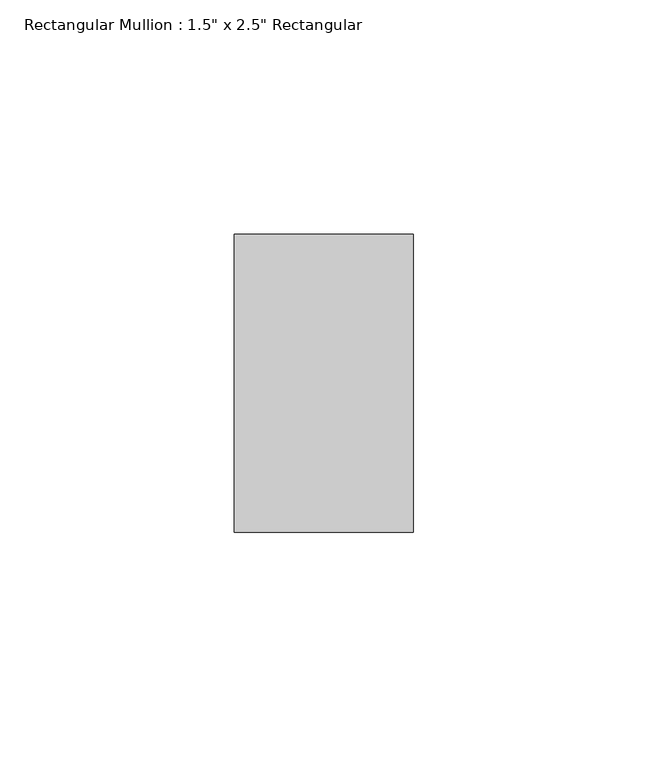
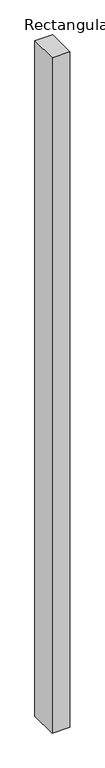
"""IFC4 building model written with IfcOpenShell, lengths in millimetres: member geometry."""

from ifc_helpers import new_model, si_unit, frame, origin, place, context, project, spatial, polyline, outline, extrude, source, transform, mapped, element, save


def member_155beb68(model_context):
    return source(origin(), model_context, "Body", "SweptSolid", [
        extrude(outline(polyline([(19.05, 31.75), (19.05, -31.75), (-19.05, -31.75), (-19.05, 31.75), (19.05, 31.75)])), frame((0.0, 0.0, -1524.0), z_axis=(0.0, 0.0, 1.0), x_axis=(1.0, 0.0, 0.0)), (0.0, 0.0, 1.0), 1524.0),
    ])


if __name__ == "__main__":
    model = new_model("IFC4")
    model_context = context("Model", 3, world=origin())
    ifc_project = project(units=[si_unit("LENGTHUNIT", "METRE", prefix="MILLI")], contexts=[model_context])
    site = spatial("IfcSite", under=ifc_project)
    building = spatial("IfcBuilding", under=site)
    placement = place(None, origin())
    member_shape = member_155beb68(model_context)
    element("IfcMember", 1, ObjectType="Rectangular Mullion : 1.5\" x 2.5\" Rectangular", at=placement, inside=building, context=model_context, shape_type="MappedRepresentation", body=[
        mapped(member_shape, transform((0.0, 0.0, 0.0), x_axis=(1.0, 0.0, 0.0), y_axis=(0.0, 1.0, 0.0), z_axis=(0.0, 0.0, 1.0))),
    ])
    save(model, "model.ifc")
